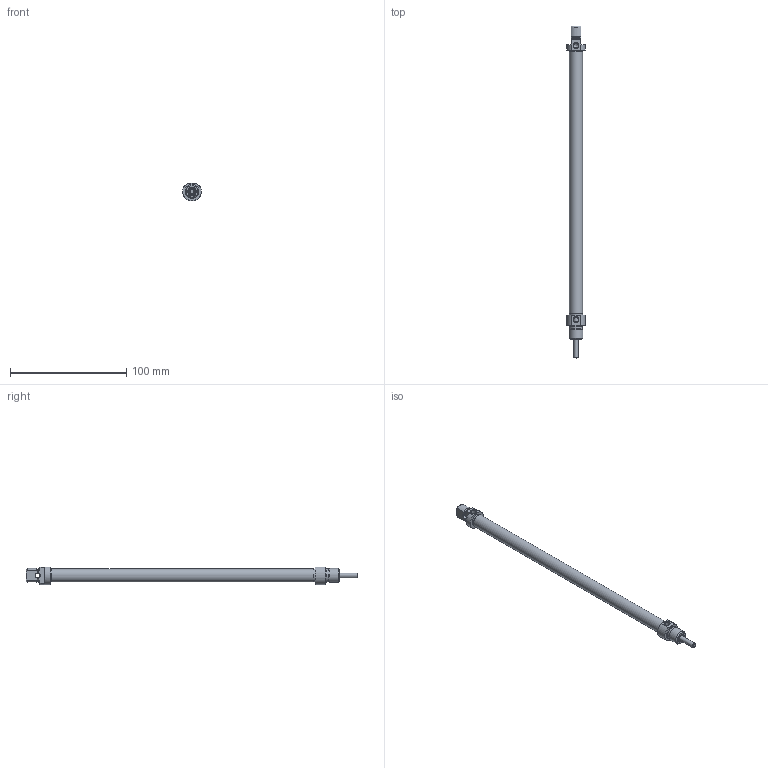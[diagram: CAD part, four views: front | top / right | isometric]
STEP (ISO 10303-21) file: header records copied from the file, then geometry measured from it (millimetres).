
FILE_DESCRIPTION((''),'2;1');
FILE_NAME('T:\Archivio Inventor\- 00 NUOVI STP PER SITO CON STELO CHE SI MUOVE\SERIE O\ODM\ODM010.---.GS.M\ODM010.200.GS.M.stp','2014-02-25T14:20:50',('carlo.corazza'),(''),'Autodesk Inventor 2012','Autodesk Inventor 2012','');
FILE_SCHEMA(('AUTOMOTIVE_DESIGN { 1 0 10303 214 1 1 1 1 }'));
Length unit declared in the file: millimetre
Products named in the file (5): ODM010..GS.M; TP; CORPO-200; TA; STELO-200
Assembly tree (4 placements, depth 2):
  ODM010..GS.M
    TP
    CORPO-200
    TA
    STELO-200
Bounding box: 16 x 286 x 15 mm (x, y, z)
Volume: 13143.3 mm3; surface area: 21642.2 mm2
Topology: 4 solids, 4 shells, 90 faces, 185 edges, 118 vertices
Faces by surface type: plane 32, cylinder 28, cone 23, torus 7
Full cylindrical faces by diameter (mm): 3 x1, 4 x2, 4.134 x2, 4.426 x1, 4.7 x1, 6.5 x1, 6.6 x1, 6.7 x1, 8.1 x1, 8.2 x1, 10 x1, 11.2 x3, 11.27 x1, 12 x2
Entity records: 2347 total; most frequent: CARTESIAN_POINT 410, DIRECTION 404, ORIENTED_EDGE 260, AXIS2_PLACEMENT_3D 184, EDGE_LOOP 154, EDGE_CURVE 130, VERTEX_POINT 108, FACE_OUTER_BOUND 90
